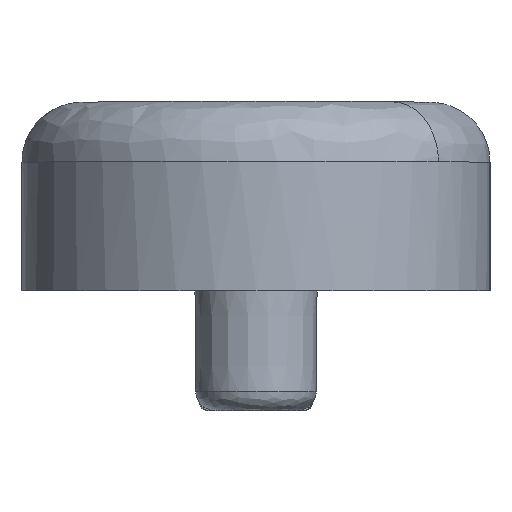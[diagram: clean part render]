
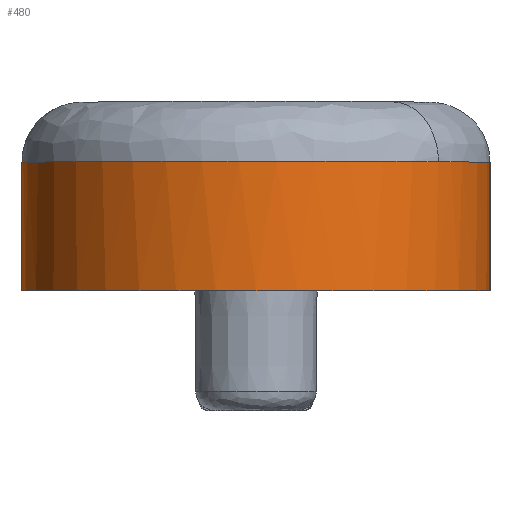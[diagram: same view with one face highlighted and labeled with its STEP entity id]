
A CAD part, left-side view. The second image highlights one B-rep face of the part: STEP entity #480.
In plain terms, the highlighted cylindrical face has radius 11.7 mm (diameter 23.4 mm), a partial arc.
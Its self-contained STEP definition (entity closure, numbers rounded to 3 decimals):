
#178=AXIS2_PLACEMENT_3D('Circle Axis2P3D',#176,#177,$) ;
#444=AXIS2_PLACEMENT_3D('Cylinder Axis2P3D',#441,#442,#443) ;
#159=CARTESIAN_POINT('Vertex',(-55.75,11.7,8.41)) ;
#173=CARTESIAN_POINT('Vertex',(-55.75,-11.7,8.41)) ;
#176=CARTESIAN_POINT('Axis2P3D Location',(-55.75,0.,8.41)) ;
#422=CARTESIAN_POINT('Line Origine',(-55.75,11.7,11.63)) ;
#426=CARTESIAN_POINT('Vertex',(-55.75,11.7,14.849)) ;
#441=CARTESIAN_POINT('Axis2P3D Location',(-55.75,0.,8.35)) ;
#446=CARTESIAN_POINT('Line Origine',(-55.75,-11.7,13.18)) ;
#450=CARTESIAN_POINT('Vertex',(-55.75,-11.7,14.849)) ;
#454=CARTESIAN_POINT('Control Point',(-55.75,-11.7,14.849)) ;
#455=CARTESIAN_POINT('Control Point',(-57.731,-11.7,14.848)) ;
#456=CARTESIAN_POINT('Control Point',(-59.713,-11.252,14.854)) ;
#457=CARTESIAN_POINT('Control Point',(-61.538,-10.359,14.863)) ;
#458=CARTESIAN_POINT('Control Point',(-63.081,-9.118,14.874)) ;
#459=CARTESIAN_POINT('Vertex',(-63.081,-9.118,14.874)) ;
#463=CARTESIAN_POINT('Control Point',(-63.081,-9.118,14.874)) ;
#464=CARTESIAN_POINT('Control Point',(-65.328,-7.312,14.888)) ;
#465=CARTESIAN_POINT('Control Point',(-67.019,-4.813,14.904)) ;
#466=CARTESIAN_POINT('Control Point',(-67.863,-1.848,14.914)) ;
#467=CARTESIAN_POINT('Control Point',(-67.623,4.182,14.911)) ;
#468=CARTESIAN_POINT('Control Point',(-64.032,9.031,14.878)) ;
#469=CARTESIAN_POINT('Control Point',(-61.517,10.812,14.856)) ;
#470=CARTESIAN_POINT('Control Point',(-58.634,11.7,14.85)) ;
#471=CARTESIAN_POINT('Control Point',(-55.75,11.7,14.849)) ;
#177=DIRECTION('Axis2P3D Direction',(-0.,0.,1.)) ;
#423=DIRECTION('Vector Direction',(0.,0.,1.)) ;
#442=DIRECTION('Axis2P3D Direction',(0.,0.,1.)) ;
#443=DIRECTION('Axis2P3D XDirection',(0.,1.,0.)) ;
#447=DIRECTION('Vector Direction',(0.,0.,1.)) ;
#424=VECTOR('Line Direction',#423,1.) ;
#448=VECTOR('Line Direction',#447,1.) ;
#474=ORIENTED_EDGE('',*,*,#428,.F.) ;
#475=ORIENTED_EDGE('',*,*,#180,.T.) ;
#476=ORIENTED_EDGE('',*,*,#452,.T.) ;
#477=ORIENTED_EDGE('',*,*,#461,.T.) ;
#478=ORIENTED_EDGE('',*,*,#472,.T.) ;
#480=ADVANCED_FACE('PartBody ( *SOL59 - wsp *MASTER -  )',(#479),#445,.T.) ;
#453=B_SPLINE_CURVE_WITH_KNOTS('',4,(#454,#455,#456,#457,#458),.UNSPECIFIED.,.F.,.U.,(5,5),(0.,7.923),.UNSPECIFIED.) ;
#462=B_SPLINE_CURVE_WITH_KNOTS('',5,(#463,#464,#465,#466,#467,#468,#469,#470,#471),.UNSPECIFIED.,.F.,.U.,(6,3,6),(7.923,22.34,36.757),.UNSPECIFIED.) ;
#179=CIRCLE('generated circle',#178,11.7) ;
#445=CYLINDRICAL_SURFACE('generated cylinder',#444,11.7) ;
#180=EDGE_CURVE('',#160,#174,#179,.T.) ;
#428=EDGE_CURVE('',#160,#427,#425,.T.) ;
#452=EDGE_CURVE('',#174,#451,#449,.T.) ;
#461=EDGE_CURVE('',#451,#460,#453,.T.) ;
#472=EDGE_CURVE('',#460,#427,#462,.T.) ;
#473=EDGE_LOOP('',(#474,#475,#476,#477,#478)) ;
#479=FACE_OUTER_BOUND('',#473,.T.) ;
#425=LINE('Line',#422,#424) ;
#449=LINE('Line',#446,#448) ;
#160=VERTEX_POINT('',#159) ;
#174=VERTEX_POINT('',#173) ;
#427=VERTEX_POINT('',#426) ;
#451=VERTEX_POINT('',#450) ;
#460=VERTEX_POINT('',#459) ;
